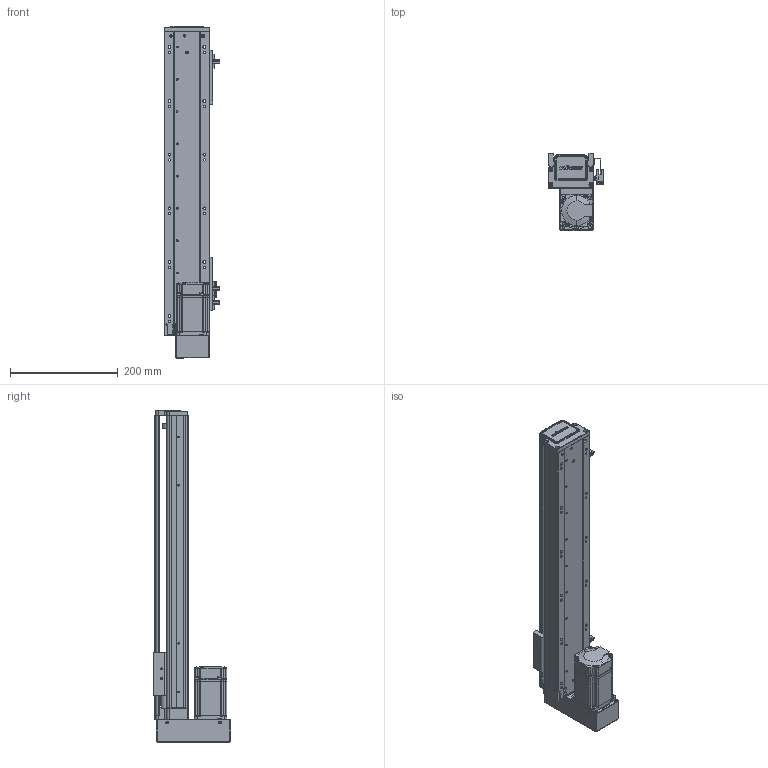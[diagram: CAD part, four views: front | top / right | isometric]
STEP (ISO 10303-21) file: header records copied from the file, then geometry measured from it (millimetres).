
FILE_DESCRIPTION (( 'STEP AP203' ), '1' );
FILE_NAME ('RY80-L1620-300-BK.SLDASM_400.step', '2021-02-20T07:10:34', ( '盈信电脑' ), ( '东莞市道滘镇水果街19号' ), 'SwSTEP 2.0', 'SolidWorks 2012', '' );
FILE_SCHEMA (( 'CONFIG_CONTROL_DESIGN' ));
Products named in the file (15): RY80-L1620-300-BK.SLDASM_400; RY80狟殏萇儂假蚾啣; 滅袉蝶18-24; RY80狟殏俋欶; 侂狟200W萇儂; RY80俋离覜茼え; RY80转接电机端支撑座; 1; T倰羞; 滅袉蝶18-10; RY80綴裔啣; 覜茼ん672; RY80臏賑輸; RY80-300蛌諉倰第菁釱-BK_400; RY80-300蛌諉倰第奻裔啣-BK_400
Assembly tree (17 placements, depth 3):
  RY80-L1620-300-BK.SLDASM_400
    RY80-300蛌諉倰第菁釱-BK_400
    RY80臏賑輸
    RY80-300蛌諉倰第奻裔啣-BK_400
    RY80綴裔啣
    滅袉蝶18-10
    T倰羞  x2
    覜茼ん672  x3
    RY80俋离覜茼え
    RY80转接电机端支撑座
    侂狟200W萇儂
      1
    RY80狟殏萇儂假蚾啣
    RY80狟殏俋欶
    滅袉蝶18-24
Bounding box: 103.7 x 144 x 617 mm (x, y, z)
Volume: 1355175.7 mm3; surface area: 515475 mm2
Topology: 16 solids, 16 shells, 2133 faces, 5881 edges, 3811 vertices
Faces by surface type: plane 1164, cylinder 773, cone 134, bspline 62
Entity records: 67783 total; most frequent: CARTESIAN_POINT 17324, ORIENTED_EDGE 10458, DIRECTION 9722, EDGE_CURVE 5229, VERTEX_POINT 3427, VECTOR 3244, LINE 3244, AXIS2_PLACEMENT_3D 3239
